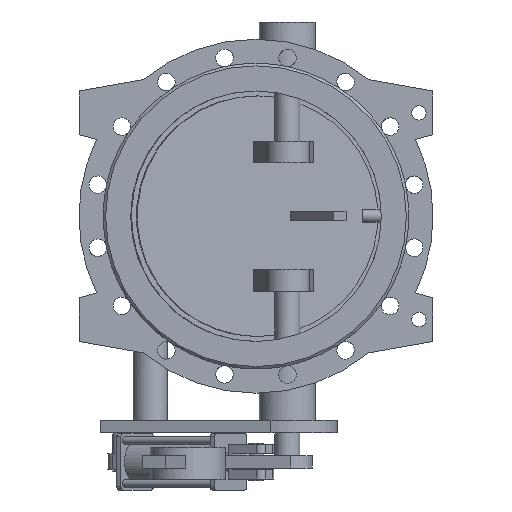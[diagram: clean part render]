
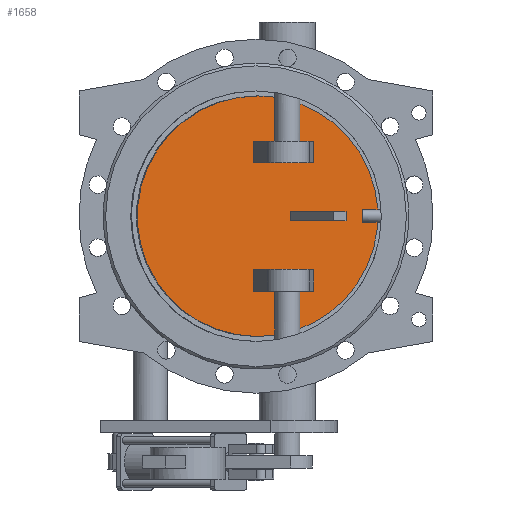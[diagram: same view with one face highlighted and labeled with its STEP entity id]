
A CAD part, front view. The second image highlights one B-rep face of the part: STEP entity #1658.
In plain terms, the highlighted planar face has unit normal (0.131, -0.991, 0).
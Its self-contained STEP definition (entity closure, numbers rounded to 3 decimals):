
#1658=ADVANCED_FACE('',(#3417,#3419,#3421,#3423),#3425,.T.);
#3417=FACE_BOUND('',#3418,.T.);
#3418=EDGE_LOOP('',(#4635));
#3419=FACE_BOUND('',#3420,.T.);
#3420=EDGE_LOOP('',(#4636,#4637,#4638,#4639));
#3421=FACE_BOUND('',#3422,.T.);
#3422=EDGE_LOOP('',(#4640,#4641,#4642,#4643));
#3423=FACE_BOUND('',#3424,.T.);
#3424=EDGE_LOOP('',(#4644,#4645,#4646,#4647));
#3425=PLANE('',#3426);
#3426=AXIS2_PLACEMENT_3D('',#3427,#3428,#3429);
#3427=CARTESIAN_POINT('',(-1.272,9.66,0.));
#3428=DIRECTION('',(0.131,-0.991,0.));
#3429=DIRECTION('',(0.,0.,-1.));
#4635=ORIENTED_EDGE('',*,*,#5196,.T.);
#4636=ORIENTED_EDGE('',*,*,#5198,.F.);
#4637=ORIENTED_EDGE('',*,*,#5199,.F.);
#4638=ORIENTED_EDGE('',*,*,#5200,.F.);
#4639=ORIENTED_EDGE('',*,*,#5201,.F.);
#4640=ORIENTED_EDGE('',*,*,#5202,.F.);
#4641=ORIENTED_EDGE('',*,*,#5203,.F.);
#4642=ORIENTED_EDGE('',*,*,#5204,.F.);
#4643=ORIENTED_EDGE('',*,*,#5205,.F.);
#4644=ORIENTED_EDGE('',*,*,#5206,.F.);
#4645=ORIENTED_EDGE('',*,*,#5207,.F.);
#4646=ORIENTED_EDGE('',*,*,#5208,.F.);
#4647=ORIENTED_EDGE('',*,*,#5209,.F.);
#5196=EDGE_CURVE('',#6080,#6080,#6081,.T.);
#5198=EDGE_CURVE('',#6084,#6085,#6086,.T.);
#5199=EDGE_CURVE('',#6087,#6084,#6088,.F.);
#5200=EDGE_CURVE('',#6089,#6087,#6090,.T.);
#5201=EDGE_CURVE('',#6085,#6089,#6091,.T.);
#5202=EDGE_CURVE('',#6092,#6093,#6094,.F.);
#5203=EDGE_CURVE('',#6095,#6092,#6096,.T.);
#5204=EDGE_CURVE('',#6097,#6095,#6098,.T.);
#5205=EDGE_CURVE('',#6093,#6097,#6099,.T.);
#5206=EDGE_CURVE('',#6100,#6101,#6102,.T.);
#5207=EDGE_CURVE('',#6103,#6100,#6104,.F.);
#5208=EDGE_CURVE('',#6105,#6103,#6106,.F.);
#5209=EDGE_CURVE('',#6101,#6105,#6107,.F.);
#6080=VERTEX_POINT('',#11002);
#6081=B_SPLINE_CURVE_WITH_KNOTS('',3,
(#11003,#11004,#11005,#11006,#11007,#11008,#11009,#11010,#11011,#11012,#11013,#11014,
#11015,#11016,#11017,#11018,#11019,#11020,#11021,#11022,#11023,#11024,#11025,#11026,
#11027,#11028,#11029,#11030,#11031,#11032,#11033,#11034,#11035,#11036,#11037,#11038,
#11039,#11040,#11041,#11042,#11043,#11044,#11045,#11046,#11047,#11048,#11049,#11050,
#11051,#11052,#11053),
.UNSPECIFIED.,.T.,.F.,
(4,1,1,1,1,1,1,1,1,1,1,1,1,1,1,1,1,1,1,1,1,1,1,1,1,1,1,1,1,1,1,1,1,1,1,1,1,1,1,1,
1,1,1,1,1,1,1,1,4),
(0.,0.021,0.042,0.063,0.084,0.105,
0.126,0.147,0.168,0.189,0.211,
0.232,0.253,0.274,0.295,0.316,
0.337,0.358,0.379,0.4,0.421,
0.442,0.463,0.484,0.505,0.526,
0.548,0.569,0.59,0.611,0.632,
0.653,0.674,0.695,0.716,0.737,
0.758,0.779,0.8,0.821,0.843,
0.864,0.885,0.906,0.927,0.948,
0.969,0.986,1.),
.UNSPECIFIED.);
#6084=VERTEX_POINT('',#11106);
#6085=VERTEX_POINT('',#11107);
#6086=LINE('',#11108,#11109);
#6087=VERTEX_POINT('',#11111);
#6088=LINE('',#11112,#11113);
#6089=VERTEX_POINT('',#11115);
#6090=LINE('',#11116,#11117);
#6091=LINE('',#11119,#11120);
#6092=VERTEX_POINT('',#11122);
#6093=VERTEX_POINT('',#11123);
#6094=LINE('',#11124,#11125);
#6095=VERTEX_POINT('',#11127);
#6096=LINE('',#11128,#11129);
#6097=VERTEX_POINT('',#11131);
#6098=LINE('',#11132,#11133);
#6099=LINE('',#11135,#11136);
#6100=VERTEX_POINT('',#11138);
#6101=VERTEX_POINT('',#11139);
#6102=LINE('',#11140,#11141);
#6103=VERTEX_POINT('',#11143);
#6104=LINE('',#11144,#11145);
#6105=VERTEX_POINT('',#11147);
#6106=LINE('',#11148,#11149);
#6107=LINE('',#11151,#11152);
#11002=CARTESIAN_POINT('',(2.611,10.171,192.));
#11003=CARTESIAN_POINT('',(2.611,10.171,192.));
#11004=CARTESIAN_POINT('',(-5.823,9.061,192.));
#11005=CARTESIAN_POINT('',(-22.711,6.837,190.886));
#11006=CARTESIAN_POINT('',(-47.636,3.556,185.894));
#11007=CARTESIAN_POINT('',(-71.72,0.385,177.648));
#11008=CARTESIAN_POINT('',(-94.522,-2.617,166.288));
#11009=CARTESIAN_POINT('',(-115.624,-5.395,152.021));
#11010=CARTESIAN_POINT('',(-134.659,-7.901,135.094));
#11011=CARTESIAN_POINT('',(-151.295,-10.091,115.801));
#11012=CARTESIAN_POINT('',(-165.239,-11.927,94.481));
#11013=CARTESIAN_POINT('',(-176.246,-13.376,71.506));
#11014=CARTESIAN_POINT('',(-184.124,-14.413,47.279));
#11015=CARTESIAN_POINT('',(-188.733,-15.02,22.223));
#11016=CARTESIAN_POINT('',(-189.993,-15.186,-3.222));
#11017=CARTESIAN_POINT('',(-187.882,-14.908,-28.61));
#11018=CARTESIAN_POINT('',(-182.437,-14.191,-53.496));
#11019=CARTESIAN_POINT('',(-173.755,-13.048,-77.443));
#11020=CARTESIAN_POINT('',(-161.987,-11.499,-100.034));
#11021=CARTESIAN_POINT('',(-147.342,-9.57,-120.873));
#11022=CARTESIAN_POINT('',(-130.075,-7.297,-139.596));
#11023=CARTESIAN_POINT('',(-110.489,-4.719,-155.877));
#11024=CARTESIAN_POINT('',(-88.926,-1.88,-169.431));
#11025=CARTESIAN_POINT('',(-65.763,1.17,-180.023));
#11026=CARTESIAN_POINT('',(-41.405,4.376,-187.467));
#11027=CARTESIAN_POINT('',(-16.277,7.685,-191.633));
#11028=CARTESIAN_POINT('',(9.181,11.036,-192.449));
#11029=CARTESIAN_POINT('',(34.525,14.373,-189.9));
#11030=CARTESIAN_POINT('',(59.311,17.636,-184.03));
#11031=CARTESIAN_POINT('',(83.107,20.769,-174.942));
#11032=CARTESIAN_POINT('',(105.496,23.716,-162.794));
#11033=CARTESIAN_POINT('',(126.087,26.427,-147.798));
#11034=CARTESIAN_POINT('',(144.52,28.854,-130.215));
#11035=CARTESIAN_POINT('',(160.471,30.954,-110.353));
#11036=CARTESIAN_POINT('',(173.661,32.69,-88.558));
#11037=CARTESIAN_POINT('',(183.858,34.033,-65.212));
#11038=CARTESIAN_POINT('',(190.884,34.958,-40.724));
#11039=CARTESIAN_POINT('',(194.614,35.449,-15.522));
#11040=CARTESIAN_POINT('',(194.984,35.497,9.951));
#11041=CARTESIAN_POINT('',(191.986,35.103,35.249));
#11042=CARTESIAN_POINT('',(185.674,34.272,59.929));
#11043=CARTESIAN_POINT('',(176.16,33.019,83.558));
#11044=CARTESIAN_POINT('',(163.61,31.367,105.723));
#11045=CARTESIAN_POINT('',(148.246,29.344,126.037));
#11046=CARTESIAN_POINT('',(130.335,26.986,144.146));
#11047=CARTESIAN_POINT('',(110.196,24.335,159.729));
#11048=CARTESIAN_POINT('',(88.207,21.44,172.503));
#11049=CARTESIAN_POINT('',(64.684,18.343,182.29));
#11050=CARTESIAN_POINT('',(41.487,15.289,188.508));
#11051=CARTESIAN_POINT('',(20.631,12.544,191.462));
#11052=CARTESIAN_POINT('',(8.118,10.896,192.));
#11053=CARTESIAN_POINT('',(2.611,10.171,192.));
#11106=CARTESIAN_POINT('',(129.358,26.858,-7.5));
#11107=CARTESIAN_POINT('',(129.358,26.858,7.5));
#11108=CARTESIAN_POINT('',(129.358,26.858,-7.5));
#11109=VECTOR('',#11110,1.);
#11110=DIRECTION('',(0.,0.,1.));
#11111=CARTESIAN_POINT('',(55.,17.068,-7.5));
#11112=CARTESIAN_POINT('',(129.358,26.858,-7.5));
#11113=VECTOR('',#11114,1.);
#11114=DIRECTION('',(-0.991,-0.131,0.));
#11115=CARTESIAN_POINT('',(55.,17.068,7.5));
#11116=CARTESIAN_POINT('',(55.,17.068,7.5));
#11117=VECTOR('',#11118,1.);
#11118=DIRECTION('',(0.,0.,-1.));
#11119=CARTESIAN_POINT('',(129.358,26.858,7.5));
#11120=VECTOR('',#11121,1.);
#11121=DIRECTION('',(-0.991,-0.131,0.));
#11122=CARTESIAN_POINT('',(-4.154,9.281,-120.));
#11123=CARTESIAN_POINT('',(92.142,21.958,-120.));
#11124=CARTESIAN_POINT('',(92.142,21.958,-120.));
#11125=VECTOR('',#11126,1.);
#11126=DIRECTION('',(-0.991,-0.131,0.));
#11127=CARTESIAN_POINT('',(-4.154,9.281,-85.));
#11128=CARTESIAN_POINT('',(-4.154,9.281,-85.));
#11129=VECTOR('',#11130,1.);
#11130=DIRECTION('',(0.,0.,-1.));
#11131=CARTESIAN_POINT('',(92.142,21.958,-85.));
#11132=CARTESIAN_POINT('',(92.142,21.958,-85.));
#11133=VECTOR('',#11134,1.);
#11134=DIRECTION('',(-0.991,-0.131,0.));
#11135=CARTESIAN_POINT('',(92.142,21.958,-120.));
#11136=VECTOR('',#11137,1.);
#11137=DIRECTION('',(0.,0.,1.));
#11138=CARTESIAN_POINT('',(92.142,21.958,120.));
#11139=CARTESIAN_POINT('',(-4.154,9.281,120.));
#11140=CARTESIAN_POINT('',(92.142,21.958,120.));
#11141=VECTOR('',#11142,1.);
#11142=DIRECTION('',(-0.991,-0.131,0.));
#11143=CARTESIAN_POINT('',(92.142,21.958,85.));
#11144=CARTESIAN_POINT('',(92.142,21.958,120.));
#11145=VECTOR('',#11146,1.);
#11146=DIRECTION('',(0.,0.,-1.));
#11147=CARTESIAN_POINT('',(-4.154,9.281,85.));
#11148=CARTESIAN_POINT('',(92.142,21.958,85.));
#11149=VECTOR('',#11150,1.);
#11150=DIRECTION('',(-0.991,-0.131,0.));
#11151=CARTESIAN_POINT('',(-4.154,9.281,85.));
#11152=VECTOR('',#11153,1.);
#11153=DIRECTION('',(0.,0.,1.));
